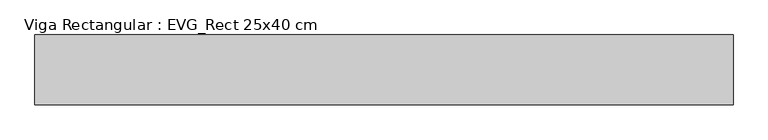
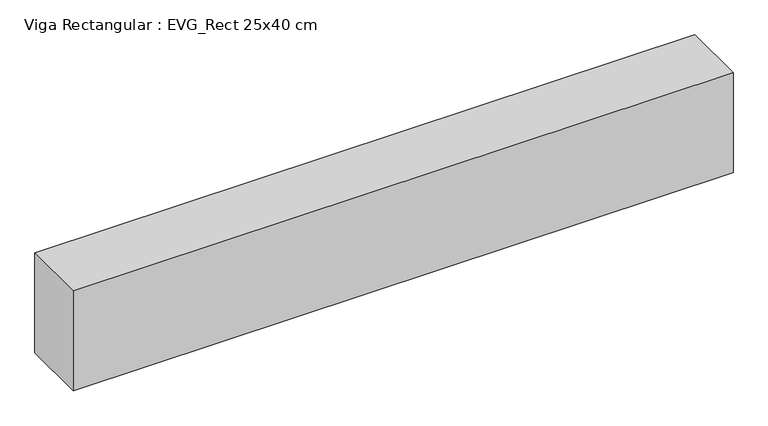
"""IFC4 building model written with IfcOpenShell, lengths in millimetres: beam geometry, Viga Rectangular : EVG_Rect 25x40 cm."""

import ifcopenshell
import ifcopenshell.guid

model = None  # the IFC model being written
_history = None  # IfcOwnerHistory: only IFC2X3 demands one
_inside = {}  # id of a spatial element -> (the spatial element, [elements in it])
_under = {}  # id of a project, library or spatial element -> (it, [spatial elements below it])
_declared = {}  # id of a project -> (the project, [libraries it declares])
_typed = {}  # id of a type object -> (the type object, [elements of that type])
_made_of = {}  # id of a material, layer set ... -> (it, [elements and type objects made of it])


def new_model(schema):
    """Start an empty IFC model of exactly this schema.

    Asked for "IFC4X3", IfcOpenShell would pick the latest addendum, in which some entities
    have other attributes; the version numbers below select the first issue.
    IFC2X3 requires an IfcOwnerHistory on every rooted entity: one is made here for all.
    """
    global model, _history
    if schema == "IFC4X3":
        model = ifcopenshell.file(schema_version=(4, 3, 0, 0))
    else:
        model = ifcopenshell.file(schema=schema)
    _inside.clear()
    _under.clear()
    _declared.clear()
    _typed.clear()
    _made_of.clear()
    _history = None
    if model.schema == "IFC2X3":
        org = make("IfcOrganization", Name="unknown")
        user = make(
            "IfcPersonAndOrganization",
            ThePerson=make("IfcPerson", FamilyName="unknown"),
            TheOrganization=org,
        )
        app = make(
            "IfcApplication",
            ApplicationDeveloper=org,
            Version="unknown",
            ApplicationFullName="unknown",
            ApplicationIdentifier="unknown",
        )
        _history = make(
            "IfcOwnerHistory",
            OwningUser=user,
            OwningApplication=app,
            ChangeAction="ADDED",
            CreationDate=0,
        )
    return model


def make(cls, **values):
    """One entity of the class cls with the attributes given. An attribute that is None is left unset."""
    return model.create_entity(
        cls, **{name: value for name, value in values.items() if value is not None}
    )


def rooted(cls, **values):
    """An entity with a GlobalId (a new one), such as an element, a storey or a relation."""
    return make(cls, GlobalId=ifcopenshell.guid.new(), OwnerHistory=_history, **values)


def si_unit(unit_type, name, prefix=None):
    """IfcSIUnit, for example si_unit("LENGTHUNIT", "METRE", prefix="MILLI")."""
    return make("IfcSIUnit", UnitType=unit_type, Prefix=prefix, Name=name)


def assignment(units):
    """IfcUnitAssignment: the units of a project."""
    return None if units is None else make("IfcUnitAssignment", Units=units)


def point(xyz):
    """IfcCartesianPoint."""
    return None if xyz is None else make("IfcCartesianPoint", Coordinates=xyz)


def direction(xyz):
    """IfcDirection."""
    return None if xyz is None else make("IfcDirection", DirectionRatios=xyz)


def frame(location, z_axis=None, x_axis=None):
    """IfcAxis2Placement3D, a coordinate frame: its origin and axes. An axis left out is left unset."""
    return make(
        "IfcAxis2Placement3D",
        Location=point(location),
        Axis=direction(z_axis),
        RefDirection=direction(x_axis),
    )


def origin():
    """The frame at (0, 0, 0) with its axes left unset."""
    return frame((0.0, 0.0, 0.0))


def place(relative_to, where):
    """IfcLocalPlacement: puts the frame where relative to a parent placement (None: the world)."""
    return make(
        "IfcLocalPlacement", PlacementRelTo=relative_to, RelativePlacement=where
    )


def context(
    kind, dimensions, precision=None, world=None, true_north=None, identifier=None
):
    """IfcGeometricRepresentationContext, for example the 3D "Model" context."""
    return make(
        "IfcGeometricRepresentationContext",
        ContextIdentifier=identifier,
        ContextType=kind,
        CoordinateSpaceDimension=dimensions,
        Precision=precision,
        WorldCoordinateSystem=world,
        TrueNorth=true_north,
    )


def project(units=None, contexts=None):
    """IfcProject with its units and contexts."""
    return rooted(
        "IfcProject",
        Name="project",
        RepresentationContexts=contexts,
        UnitsInContext=assignment(units),
    )


def spatial(cls, under=None, at=None, **own):
    """A site, building, storey or space (cls), placed at a placement, below another one or the project."""
    s = rooted(cls, ObjectPlacement=at, **own)
    if under is not None:
        _under.setdefault(under.id(), (under, []))[1].append(s)
    return s


def polyline(points):
    """IfcPolyline through the points."""
    return make("IfcPolyline", Points=[point(p) for p in points])


def outline(outer, holes=None, kind="AREA"):
    """IfcArbitraryClosedProfileDef: a profile drawn as a closed curve; with holes, ...WithVoids."""
    if holes is None:
        return make("IfcArbitraryClosedProfileDef", ProfileType=kind, OuterCurve=outer)
    return make(
        "IfcArbitraryProfileDefWithVoids",
        ProfileType=kind,
        OuterCurve=outer,
        InnerCurves=holes,
    )


def extrude(swept, where, along, depth):
    """IfcExtrudedAreaSolid: the profile swept, set in the frame where, extruded along a direction by depth."""
    return make(
        "IfcExtrudedAreaSolid",
        SweptArea=swept,
        Position=where,
        ExtrudedDirection=direction(along),
        Depth=depth,
    )


def shape(context_of_items, identifier, shape_type, items):
    """IfcShapeRepresentation: the items that make up one representation, for example the "Body"."""
    return make(
        "IfcShapeRepresentation",
        ContextOfItems=context_of_items,
        RepresentationIdentifier=identifier,
        RepresentationType=shape_type,
        Items=items,
    )


def source(mapping_origin, context_of_items, identifier, shape_type, items):
    """IfcRepresentationMap: a shape defined once, which mapped items show again and again."""
    return make(
        "IfcRepresentationMap",
        MappingOrigin=mapping_origin,
        MappedRepresentation=shape(context_of_items, identifier, shape_type, items),
    )


def transform(
    local_origin,
    x_axis=None,
    y_axis=None,
    z_axis=None,
    scale=None,
    scale2=None,
    scale3=None,
    uniform=True,
):
    """IfcCartesianTransformationOperator3D, or its non-uniform kind. x_axis, y_axis, z_axis: its Axis1, 2, 3."""
    if uniform:
        return make(
            "IfcCartesianTransformationOperator3D",
            Axis1=direction(x_axis),
            Axis2=direction(y_axis),
            LocalOrigin=point(local_origin),
            Scale=scale,
            Axis3=direction(z_axis),
        )
    return make(
        "IfcCartesianTransformationOperator3DnonUniform",
        Axis1=direction(x_axis),
        Axis2=direction(y_axis),
        LocalOrigin=point(local_origin),
        Scale=scale,
        Axis3=direction(z_axis),
        Scale2=scale2,
        Scale3=scale3,
    )


def mapped(mapping_source, mapping_target):
    """IfcMappedItem: shows the shape of a source again, moved by a transform."""
    return make(
        "IfcMappedItem", MappingSource=mapping_source, MappingTarget=mapping_target
    )


def made_of(thing, what):
    """Note that an element or type object is made of a material, layer set ...; save() writes the relation."""
    if what is not None:
        _made_of.setdefault(what.id(), (what, []))[1].append(thing)
    return thing


def element(
    cls,
    number,
    at=None,
    inside=None,
    cuts=None,
    type_object=None,
    material=None,
    context=None,
    identifier="Body",
    shape_type=None,
    held_by="IfcProductDefinitionShape",
    body=None,
    shapes=None,
    **own,
):
    """One element of the class cls, such as IfcWall. Its Tag is "e" and its number.

    at: its placement. inside: the storey or other place that contains it. cuts: it is an
    opening in that element (IfcRelVoidsElement). A single representation is given by context,
    identifier, shape_type and body (its items); several are given by shapes. held_by: the class
    of the entity that holds the representations. save() writes the other relations.
    """
    e = rooted(cls, Tag="e%d" % number, ObjectPlacement=at, **own)
    if body is not None:
        shapes = [shape(context, identifier, shape_type, body)]
    if shapes is not None:
        e.Representation = make(held_by, Representations=shapes)
    if inside is not None:
        _inside.setdefault(inside.id(), (inside, []))[1].append(e)
    if cuts is not None:
        rooted(
            "IfcRelVoidsElement", RelatingBuildingElement=cuts, RelatedOpeningElement=e
        )
    if type_object is not None:
        _typed.setdefault(type_object.id(), (type_object, []))[1].append(e)
    return made_of(e, material)


def aggregate(whole, parts):
    """IfcRelAggregates: a whole, such as a stair, and the parts it consists of."""
    return rooted("IfcRelAggregates", RelatingObject=whole, RelatedObjects=parts)


def save(model, path):
    """Write the relations noted so far, then the file.

    IfcRelAggregates (storeys below a building ...), IfcRelContainedInSpatialStructure (elements
    in a storey), IfcRelDefinesByType, IfcRelAssociatesMaterial and IfcRelDeclares: one each for
    every whole, place, type object, material and project.
    """
    for whole, parts in _under.values():
        aggregate(whole, parts)
    for where, things in _inside.values():
        rooted(
            "IfcRelContainedInSpatialStructure",
            RelatedElements=things,
            RelatingStructure=where,
        )
    for kind, things in _typed.values():
        rooted("IfcRelDefinesByType", RelatedObjects=things, RelatingType=kind)
    for what, things in _made_of.values():
        rooted("IfcRelAssociatesMaterial", RelatedObjects=things, RelatingMaterial=what)
    for by, libraries in _declared.values():
        rooted("IfcRelDeclares", RelatingContext=by, RelatedDefinitions=libraries)
    model.write(path)


def viga_rectangular_evg_rect_25x40_cm_ec8e30a6(model_context):
    return source(origin(), model_context, "Body", "SweptSolid", [
        extrude(outline(polyline([(900.0, 125.0), (900.0, -125.0), (-1600.0, -125.0), (-1600.0, 125.0), (900.0, 125.0)])), frame((0.0, 0.0, -400.0), z_axis=(0.0, 0.0, 1.0), x_axis=(1.0, 0.0, 0.0)), (0.0, 0.0, 1.0), 400.0),
    ])


if __name__ == "__main__":
    model = new_model("IFC4")
    model_context = context("Model", 3, world=origin())
    ifc_project = project(units=[si_unit("LENGTHUNIT", "METRE", prefix="MILLI")], contexts=[model_context])
    site = spatial("IfcSite", under=ifc_project)
    building = spatial("IfcBuilding", under=site)
    placement = place(None, origin())
    viga_rectangular_evg_rect_25x40_cm_shape = viga_rectangular_evg_rect_25x40_cm_ec8e30a6(model_context)
    element("IfcBeam", 1, ObjectType="Viga Rectangular : EVG_Rect 25x40 cm", at=placement, inside=building, context=model_context, shape_type="MappedRepresentation", body=[
        mapped(viga_rectangular_evg_rect_25x40_cm_shape, transform((0.0, 0.0, 0.0), x_axis=(1.0, 0.0, 0.0), y_axis=(0.0, 1.0, 0.0), z_axis=(0.0, 0.0, 1.0))),
    ])
    save(model, "model.ifc")
